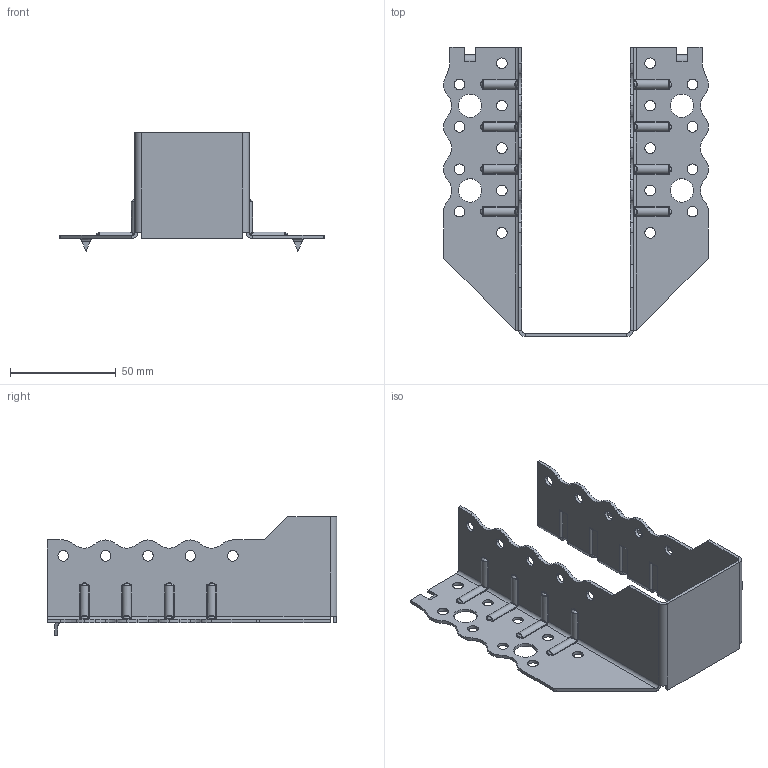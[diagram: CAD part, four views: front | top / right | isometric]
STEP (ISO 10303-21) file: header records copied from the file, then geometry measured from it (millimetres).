
FILE_DESCRIPTION (( 'STEP AP203' ), '1' );
FILE_NAME ('30608TOPK.STEP', '2021-04-08T14:21:43', ( '' ), ( '' ), 'SwSTEP 2.0', 'SolidWorks 2013', '' );
FILE_SCHEMA (( 'CONFIG_CONTROL_DESIGN' ));
Length unit declared in the file: millimetre
Products named in the file (1): 30608TOPK
Bounding box: 125 x 136.5 x 56 mm (x, y, z)
Volume: 30444 mm3; surface area: 43351.6 mm2
Topology: 1 solids, 1 shells, 509 faces, 1269 edges, 762 vertices
Faces by surface type: cylinder 251, bspline 120, plane 106, torus 16, sphere 16
Entity records: 22882 total; most frequent: CARTESIAN_POINT 11293, ORIENTED_EDGE 2538, DIRECTION 2267, EDGE_CURVE 1269, AXIS2_PLACEMENT_3D 864, VERTEX_POINT 762, EDGE_LOOP 573, LINE 539
